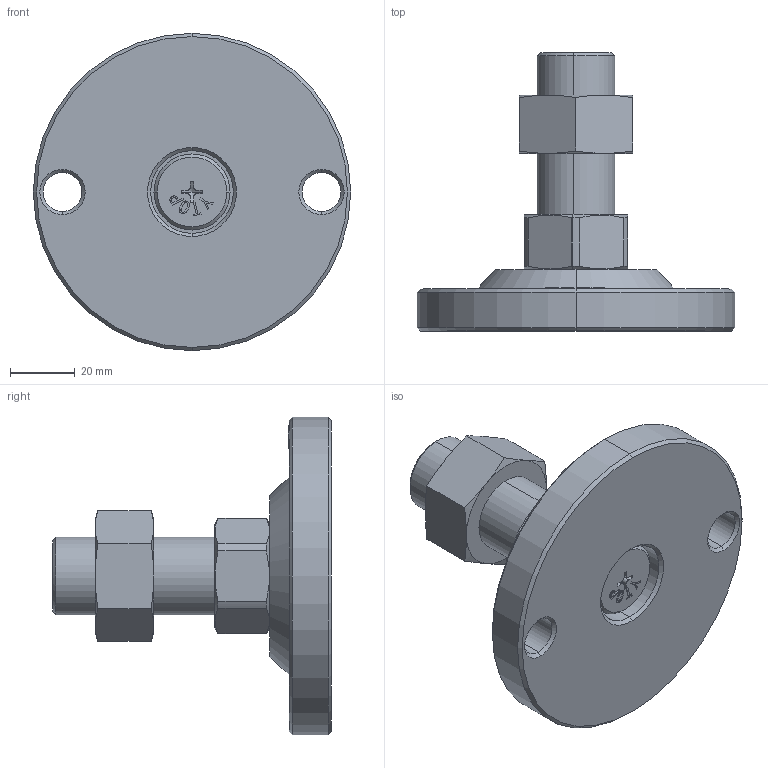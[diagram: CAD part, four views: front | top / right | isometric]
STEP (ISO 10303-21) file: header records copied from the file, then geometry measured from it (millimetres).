
FILE_DESCRIPTION (( 'STEP AP203' ), '1' );
FILE_NAME ('KL-100-2450-P.STEP', '2020-09-10T02:29:59', ( '' ), ( '' ), 'SwSTEP 2.0', 'SolidWorks 2016', '' );
FILE_SCHEMA (( 'CONFIG_CONTROL_DESIGN' ));
Length unit declared in the file: millimetre
Products named in the file (5): KL-100-2450-P; KL-100-0.1 KL100菁釱; 螺丝平底十字带商标M10系列_M10X14; 眻芛蹟邡M24炵蹈_M24X50; 脚垫调节六角螺母M24
Assembly tree (4 placements, depth 2):
  KL-100-2450-P
    KL-100-0.1 KL100菁釱
    眻芛蹟邡M24炵蹈_M24X50
    螺丝平底十字带商标M10系列_M10X14
    脚垫调节六角螺母M24
Bounding box: 98 x 86 x 98 mm (x, y, z)
Volume: 156478.4 mm3; surface area: 34498.7 mm2
Topology: 4 solids, 4 shells, 210 faces, 511 edges, 324 vertices
Faces by surface type: plane 101, cone 52, cylinder 33, bspline 24
Entity records: 8380 total; most frequent: CARTESIAN_POINT 3120, ORIENTED_EDGE 1014, DIRECTION 903, EDGE_CURVE 507, VERTEX_POINT 324, AXIS2_PLACEMENT_3D 307, LINE 289, VECTOR 289
